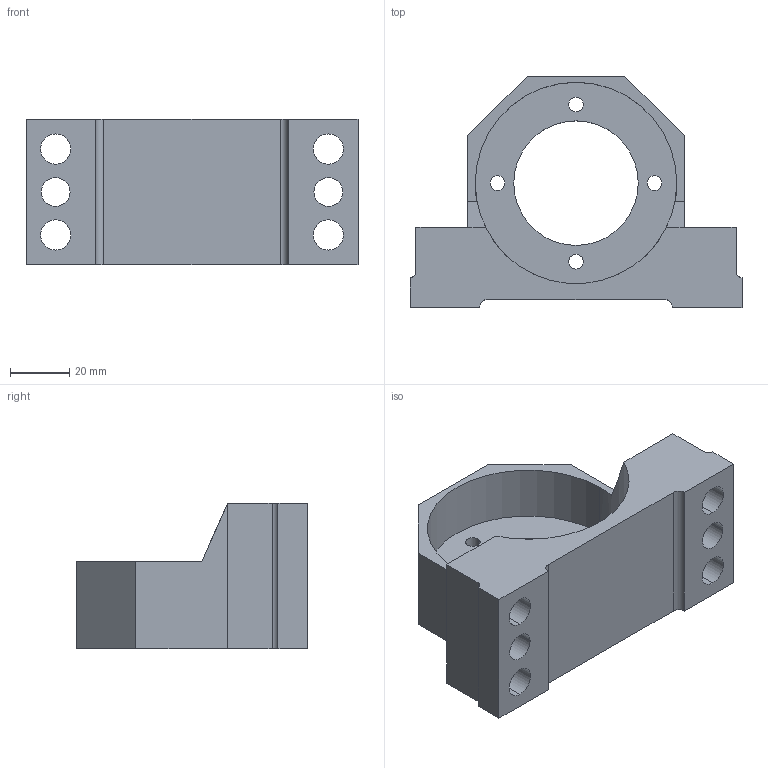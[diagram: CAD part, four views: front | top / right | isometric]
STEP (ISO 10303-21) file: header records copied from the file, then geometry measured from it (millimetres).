
FILE_DESCRIPTION (( 'STEP AP203' ), '1' );
FILE_NAME ('SFA-20.STEP', '2002-08-15T15:47:58', ( '.' ), ( '.' ), 'SwSTEP 2.0', 'SolidWorks 2001340', '' );
FILE_SCHEMA (( 'CONFIG_CONTROL_DESIGN' ));
Length unit declared in the file: millimetre
Products named in the file (1): SFA-20
Bounding box: 112 x 78 x 49 mm (x, y, z)
Volume: 121903.3 mm3; surface area: 36044.8 mm2
Topology: 1 solids, 1 shells, 48 faces, 136 edges, 90 vertices
Faces by surface type: cylinder 28, plane 20
Entity records: 1703 total; most frequent: DIRECTION 290, CARTESIAN_POINT 281, ORIENTED_EDGE 272, EDGE_CURVE 136, AXIS2_PLACEMENT_3D 107, VERTEX_POINT 90, LINE 76, VECTOR 76
